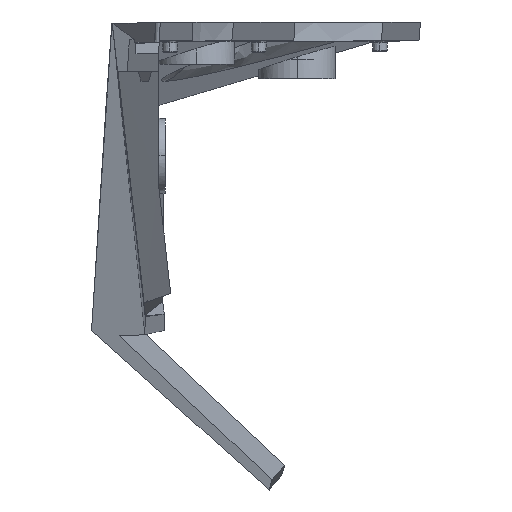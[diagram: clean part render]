
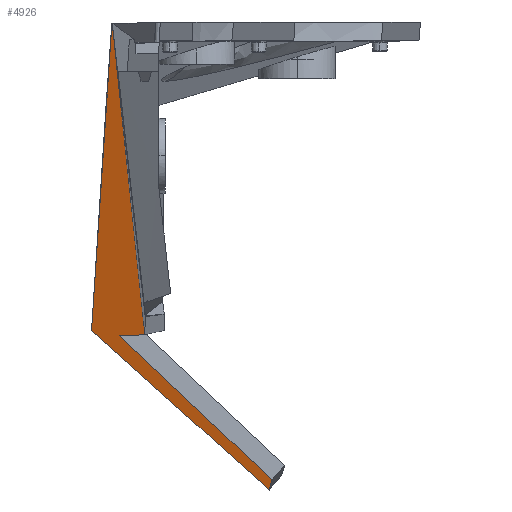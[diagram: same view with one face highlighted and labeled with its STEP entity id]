
A CAD part, left-side view. The second image highlights one B-rep face of the part: STEP entity #4926.
In plain terms, the highlighted planar face has unit normal (-0.093, 0.669, -0.738).
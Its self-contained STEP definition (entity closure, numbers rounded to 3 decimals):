
#179 = LINE ( 'NONE', #3237, #6007 ) ;
#230 = PLANE ( 'NONE',  #1225 ) ;
#438 = CARTESIAN_POINT ( 'NONE',  ( 9.985, 130.913, 63.27 ) ) ;
#469 = EDGE_CURVE ( 'NONE', #909, #6989, #6259, .T. ) ;
#490 = CARTESIAN_POINT ( 'NONE',  ( 253.738, 129.268, 30.911 ) ) ;
#541 = B_SPLINE_CURVE_WITH_KNOTS ( 'NONE', 3,
 ( #8641, #1805, #490, #6584 ),
 .UNSPECIFIED., .F., .F.,
 ( 4, 4 ),
 ( 0., 1. ),
 .UNSPECIFIED. ) ;
#571 = DIRECTION ( 'NONE',  ( 0.093, -0.669, 0.738 ) ) ;
#596 = CARTESIAN_POINT ( 'NONE',  ( 276.721, 133.063, 31.441 ) ) ;
#791 = VERTEX_POINT ( 'NONE', #2694 ) ;
#848 = CARTESIAN_POINT ( 'NONE',  ( 276.721, 133.063, 31.441 ) ) ;
#909 = VERTEX_POINT ( 'NONE', #9103 ) ;
#947 = ORIENTED_EDGE ( 'NONE', *, *, #1509, .T. ) ;
#1225 = AXIS2_PLACEMENT_3D ( 'NONE', #2628, #571, #5231 ) ;
#1297 = CARTESIAN_POINT ( 'NONE',  ( 99.047, 131.652, 52.661 ) ) ;
#1509 = EDGE_CURVE ( 'NONE', #4014, #1769, #8521, .T. ) ;
#1769 = VERTEX_POINT ( 'NONE', #4458 ) ;
#1805 = CARTESIAN_POINT ( 'NONE',  ( 247.192, 128.395, 30.949 ) ) ;
#1956 = ORIENTED_EDGE ( 'NONE', *, *, #5373, .F. ) ;
#1999 = CARTESIAN_POINT ( 'NONE',  ( 10.211, 130.946, 63.271 ) ) ;
#2258 = EDGE_CURVE ( 'NONE', #791, #909, #7150, .T. ) ;
#2628 = CARTESIAN_POINT ( 'NONE',  ( 316.956, 133.382, 26.635 ) ) ;
#2662 = VERTEX_POINT ( 'NONE', #7719 ) ;
#2694 = CARTESIAN_POINT ( 'NONE',  ( 9.985, 130.913, 63.27 ) ) ;
#2726 = B_SPLINE_CURVE_WITH_KNOTS ( 'NONE', 3,
 ( #3605, #6653, #9699, #2871 ),
 .UNSPECIFIED., .F., .F.,
 ( 4, 4 ),
 ( 0., 1. ),
 .UNSPECIFIED. ) ;
#2871 = CARTESIAN_POINT ( 'NONE',  ( 240.647, 127.521, 30.986 ) ) ;
#3237 = CARTESIAN_POINT ( 'NONE',  ( 260.284, 130.141, 30.874 ) ) ;
#3283 = FACE_OUTER_BOUND ( 'NONE', #5358, .T. ) ;
#3605 = CARTESIAN_POINT ( 'NONE',  ( 9.985, 130.913, 63.27 ) ) ;
#3757 = EDGE_CURVE ( 'NONE', #791, #8129, #2726, .T. ) ;
#3891 = CARTESIAN_POINT ( 'NONE',  ( 276.307, 126.91, 25.916 ) ) ;
#3982 = CARTESIAN_POINT ( 'NONE',  ( 240.647, 127.521, 30.986 ) ) ;
#4014 = VERTEX_POINT ( 'NONE', #7384 ) ;
#4188 = EDGE_CURVE ( 'NONE', #6989, #4014, #9862, .T. ) ;
#4436 = CARTESIAN_POINT ( 'NONE',  ( 187.884, 132.357, 42.051 ) ) ;
#4458 = CARTESIAN_POINT ( 'NONE',  ( 265.165, 114.309, 15.906 ) ) ;
#4844 = ORIENTED_EDGE ( 'NONE', *, *, #2258, .T. ) ;
#4869 = EDGE_CURVE ( 'NONE', #2662, #1769, #179, .T. ) ;
#4926 = ADVANCED_FACE ( 'NONE', ( #3283 ), #230, .F. ) ;
#5077 = CARTESIAN_POINT ( 'NONE',  ( 276.721, 133.063, 31.441 ) ) ;
#5091 = CARTESIAN_POINT ( 'NONE',  ( 10.06, 130.925, 63.27 ) ) ;
#5231 = DIRECTION ( 'NONE',  ( -0.99, -0.138, 0. ) ) ;
#5320 = ORIENTED_EDGE ( 'NONE', *, *, #3757, .F. ) ;
#5358 = EDGE_LOOP ( 'NONE', ( #947, #7628, #1956, #5320, #4844, #8983, #5994 ) ) ;
#5373 = EDGE_CURVE ( 'NONE', #8129, #2662, #541, .T. ) ;
#5994 = ORIENTED_EDGE ( 'NONE', *, *, #4188, .T. ) ;
#6007 = VECTOR ( 'NONE', #8438, 1000. ) ;
#6091 = CARTESIAN_POINT ( 'NONE',  ( 275.479, 114.603, 14.866 ) ) ;
#6259 = B_SPLINE_CURVE_WITH_KNOTS ( 'NONE', 3,
 ( #8890, #1297, #4436, #596 ),
 .UNSPECIFIED., .F., .F.,
 ( 4, 4 ),
 ( 0., 1. ),
 .UNSPECIFIED. ) ;
#6584 = CARTESIAN_POINT ( 'NONE',  ( 260.284, 130.141, 30.874 ) ) ;
#6653 = CARTESIAN_POINT ( 'NONE',  ( 86.872, 129.782, 52.509 ) ) ;
#6775 = VECTOR ( 'NONE', #7716, 1000. ) ;
#6989 = VERTEX_POINT ( 'NONE', #5077 ) ;
#7150 = B_SPLINE_CURVE_WITH_KNOTS ( 'NONE', 3,
 ( #438, #5091, #8126, #1999 ),
 .UNSPECIFIED., .F., .F.,
 ( 4, 4 ),
 ( 0., 1. ),
 .UNSPECIFIED. ) ;
#7384 = CARTESIAN_POINT ( 'NONE',  ( 275.479, 114.603, 14.866 ) ) ;
#7628 = ORIENTED_EDGE ( 'NONE', *, *, #4869, .F. ) ;
#7716 = DIRECTION ( 'NONE',  ( -0.995, -0.028, 0.1 ) ) ;
#7719 = CARTESIAN_POINT ( 'NONE',  ( 260.284, 130.141, 30.874 ) ) ;
#8126 = CARTESIAN_POINT ( 'NONE',  ( 10.135, 130.936, 63.27 ) ) ;
#8129 = VERTEX_POINT ( 'NONE', #3982 ) ;
#8438 = DIRECTION ( 'NONE',  ( 0.219, -0.709, -0.67 ) ) ;
#8521 = LINE ( 'NONE', #9260, #6775 ) ;
#8538 = CARTESIAN_POINT ( 'NONE',  ( 275.893, 120.756, 20.391 ) ) ;
#8641 = CARTESIAN_POINT ( 'NONE',  ( 240.647, 127.521, 30.986 ) ) ;
#8890 = CARTESIAN_POINT ( 'NONE',  ( 10.211, 130.946, 63.271 ) ) ;
#8983 = ORIENTED_EDGE ( 'NONE', *, *, #469, .T. ) ;
#9103 = CARTESIAN_POINT ( 'NONE',  ( 10.211, 130.946, 63.271 ) ) ;
#9260 = CARTESIAN_POINT ( 'NONE',  ( 275.479, 114.603, 14.866 ) ) ;
#9699 = CARTESIAN_POINT ( 'NONE',  ( 163.759, 128.652, 41.748 ) ) ;
#9862 = B_SPLINE_CURVE_WITH_KNOTS ( 'NONE', 3,
 ( #848, #3891, #8538, #6091 ),
 .UNSPECIFIED., .F., .F.,
 ( 4, 4 ),
 ( 0., 1. ),
 .UNSPECIFIED. ) ;
